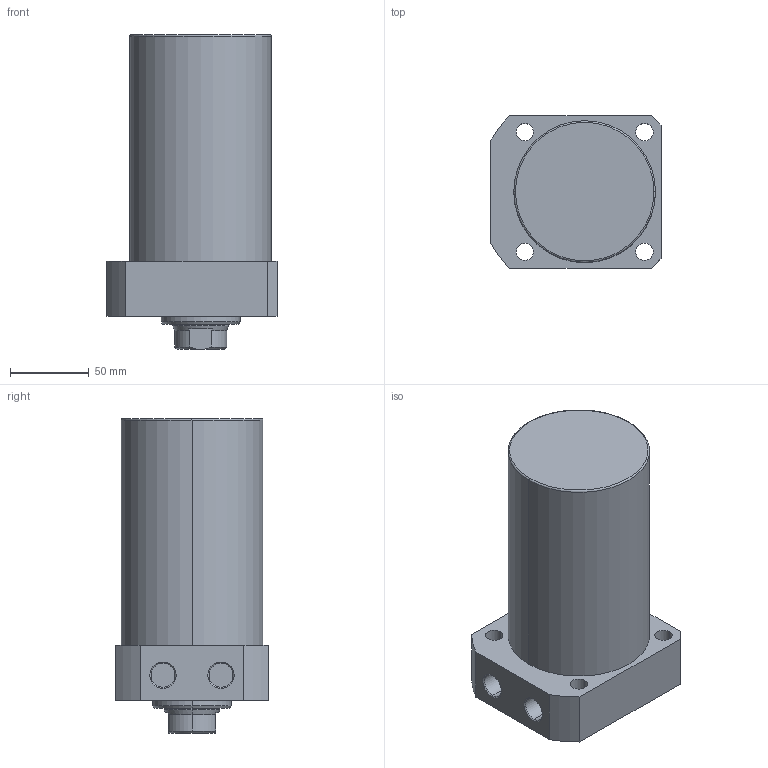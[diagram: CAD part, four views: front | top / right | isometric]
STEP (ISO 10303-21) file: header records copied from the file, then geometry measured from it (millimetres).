
FILE_DESCRIPTION (( 'STEP AP203' ), '1' );
FILE_NAME ('CLLR-090CA-100.STEP', '2019-12-18T06:24:59', ( '' ), ( '' ), 'SwSTEP 2.0', 'SolidWorks 2015', '' );
FILE_SCHEMA (( 'CONFIG_CONTROL_DESIGN' ));
Length unit declared in the file: millimetre
Products named in the file (1): CLLR-090CA-100
Bounding box: 108 x 97 x 200 mm (x, y, z)
Volume: 1264993.8 mm3; surface area: 85802.5 mm2
Topology: 1 solids, 1 shells, 65 faces, 151 edges, 94 vertices
Faces by surface type: cylinder 29, plane 19, cone 15, torus 2
Entity records: 1977 total; most frequent: CARTESIAN_POINT 357, DIRECTION 350, ORIENTED_EDGE 298, EDGE_CURVE 149, AXIS2_PLACEMENT_3D 143, VERTEX_POINT 94, EDGE_LOOP 81, CIRCLE 77
